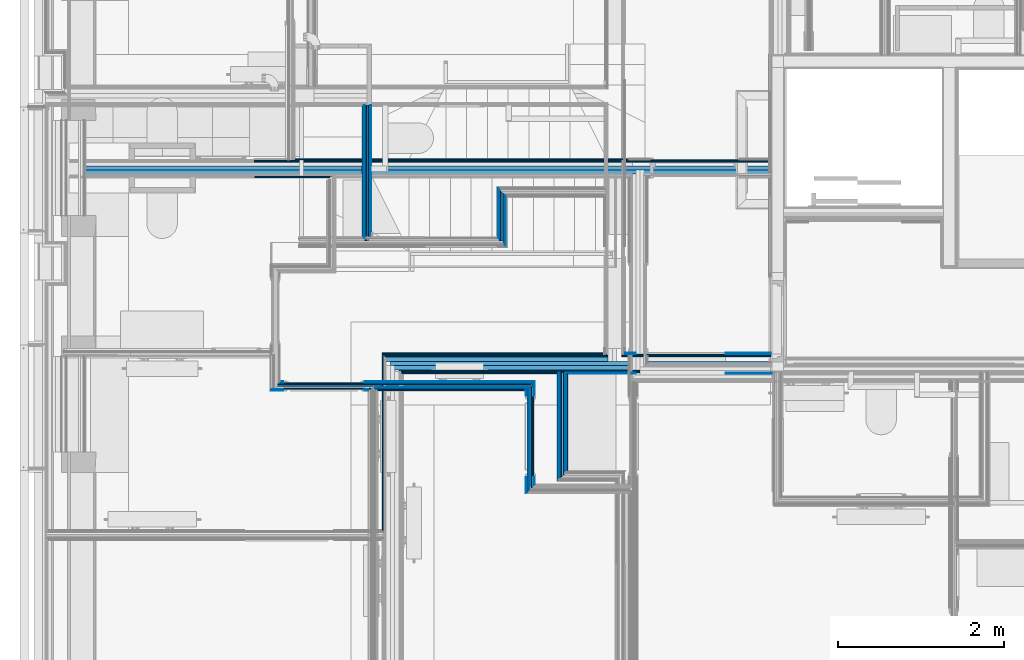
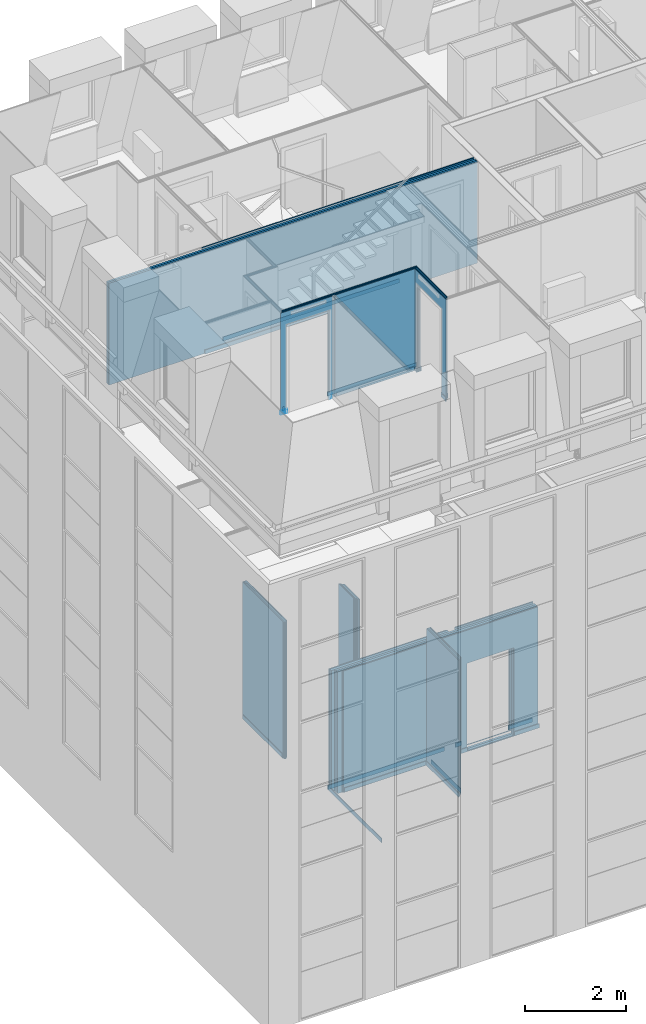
# One storey, part 18 of 169: 54 building element parts, 3 openings, 8 elements without a shape of their own.
"""IFC2X3 building model written with IfcOpenShell, lengths in metres."""

from ifc_helpers import new_model, entity, si_unit, converted_unit, derived_unit, money_unit, direction, frame, frame_2d, origin_with_axes, place, context, subcontext, project, spatial, polyline, rectangle, outline, extrude, material, type_object, element, aggregate, save


model = new_model("IFC2X3")

# Units and contexts
model_context = context("Model", 3, precision=1e-05, world=origin_with_axes(), true_north=direction((0.0, 1.0)))
body_context = subcontext(model_context, "Body", "Model", "MODEL_VIEW", scale=1.0)
ifc_project = project(units=[si_unit("LENGTHUNIT", "METRE"), si_unit("AREAUNIT", "SQUARE_METRE"), si_unit("VOLUMEUNIT", "CUBIC_METRE"), si_unit("ABSORBEDDOSEUNIT", "GRAY"), si_unit("AMOUNTOFSUBSTANCEUNIT", "MOLE"), si_unit("DOSEEQUIVALENTUNIT", "SIEVERT"), si_unit("ELECTRICCAPACITANCEUNIT", "FARAD"), si_unit("ELECTRICCHARGEUNIT", "COULOMB"), si_unit("ELECTRICCONDUCTANCEUNIT", "SIEMENS"), si_unit("ELECTRICCURRENTUNIT", "AMPERE"), si_unit("ELECTRICRESISTANCEUNIT", "OHM"), si_unit("ELECTRICVOLTAGEUNIT", "VOLT"), si_unit("ENERGYUNIT", "JOULE"), si_unit("FORCEUNIT", "NEWTON"), si_unit("FREQUENCYUNIT", "HERTZ"), si_unit("ILLUMINANCEUNIT", "LUX"), si_unit("INDUCTANCEUNIT", "HENRY"), si_unit("LUMINOUSFLUXUNIT", "LUMEN"), si_unit("LUMINOUSINTENSITYUNIT", "CANDELA"), si_unit("MAGNETICFLUXDENSITYUNIT", "TESLA"), si_unit("MAGNETICFLUXUNIT", "WEBER"), si_unit("MASSUNIT", "GRAM"), converted_unit("PLANEANGLEUNIT", "degree", entity("IfcReal", 0.0174532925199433), si_unit("PLANEANGLEUNIT", "RADIAN"), dimensions=[0, 0, 0, 0, 0, 0, 0]), si_unit("POWERUNIT", "WATT"), si_unit("PRESSUREUNIT", "PASCAL"), si_unit("RADIOACTIVITYUNIT", "BECQUEREL"), si_unit("SOLIDANGLEUNIT", "STERADIAN"), si_unit("THERMODYNAMICTEMPERATUREUNIT", "KELVIN"), si_unit("TIMEUNIT", "SECOND"), derived_unit("ACCELERATIONUNIT", [(si_unit("LENGTHUNIT", "METRE"), 1), (si_unit("TIMEUNIT", "SECOND"), -2)]), derived_unit("ANGULARVELOCITYUNIT", [(converted_unit("PLANEANGLEUNIT", "degree", entity("IfcReal", 0.0174532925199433), si_unit("PLANEANGLEUNIT", "RADIAN"), dimensions=[0, 0, 0, 0, 0, 0, 0]), 1), (si_unit("TIMEUNIT", "SECOND"), -1)]), derived_unit("CURVATUREUNIT", [(converted_unit("PLANEANGLEUNIT", "degree", entity("IfcReal", 0.0174532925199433), si_unit("PLANEANGLEUNIT", "RADIAN"), dimensions=[0, 0, 0, 0, 0, 0, 0]), 1), (si_unit("LENGTHUNIT", "METRE"), -1)]), derived_unit("DYNAMICVISCOSITYUNIT", [(si_unit("PRESSUREUNIT", "PASCAL"), 1), (si_unit("TIMEUNIT", "SECOND"), 1)]), derived_unit("HEATFLUXDENSITYUNIT", [(si_unit("POWERUNIT", "WATT"), 1), (si_unit("LENGTHUNIT", "METRE"), -2)]), derived_unit("HEATINGVALUEUNIT", [(si_unit("ENERGYUNIT", "JOULE"), 1), (si_unit("MASSUNIT", "GRAM"), -1)]), derived_unit("INTEGERCOUNTRATEUNIT", [(si_unit("TIMEUNIT", "SECOND"), -1)]), derived_unit("IONCONCENTRATIONUNIT", [(si_unit("MASSUNIT", "GRAM"), 1), (si_unit("VOLUMEUNIT", "CUBIC_METRE"), -1)]), derived_unit("ISOTHERMALMOISTURECAPACITYUNIT", [(si_unit("VOLUMEUNIT", "CUBIC_METRE"), 1), (si_unit("MASSUNIT", "GRAM"), -1)]), derived_unit("KINEMATICVISCOSITYUNIT", [(si_unit("AREAUNIT", "SQUARE_METRE"), 1), (si_unit("TIMEUNIT", "SECOND"), -1)]), derived_unit("LINEARFORCEUNIT", [(si_unit("FORCEUNIT", "NEWTON"), 1), (si_unit("LENGTHUNIT", "METRE"), -1)]), derived_unit("LINEARMOMENTUNIT", [(si_unit("FORCEUNIT", "NEWTON"), 1), (si_unit("LENGTHUNIT", "METRE"), -1)]), derived_unit("LINEARSTIFFNESSUNIT", [(si_unit("FORCEUNIT", "NEWTON"), 1), (si_unit("LENGTHUNIT", "METRE"), -1)]), derived_unit("LINEARVELOCITYUNIT", [(si_unit("LENGTHUNIT", "METRE"), 1), (si_unit("TIMEUNIT", "SECOND"), -1)]), derived_unit("LUMINOUSINTENSITYDISTRIBUTIONUNIT", [(si_unit("LUMINOUSINTENSITYUNIT", "CANDELA"), 1), (si_unit("LUMINOUSFLUXUNIT", "LUMEN"), -1)]), derived_unit("MASSDENSITYUNIT", [(si_unit("MASSUNIT", "GRAM"), 1), (si_unit("VOLUMEUNIT", "CUBIC_METRE"), -1)]), derived_unit("MASSFLOWRATEUNIT", [(si_unit("MASSUNIT", "GRAM"), 1), (si_unit("TIMEUNIT", "SECOND"), -1)]), derived_unit("MASSPERLENGTHUNIT", [(si_unit("MASSUNIT", "GRAM"), 1), (si_unit("LENGTHUNIT", "METRE"), -1)]), derived_unit("MODULUSOFELASTICITYUNIT", [(si_unit("FORCEUNIT", "NEWTON"), 1), (si_unit("AREAUNIT", "SQUARE_METRE"), -1)]), derived_unit("MODULUSOFLINEARSUBGRADEREACTIONUNIT", [(si_unit("FORCEUNIT", "NEWTON"), 1), (si_unit("LENGTHUNIT", "METRE"), -2)]), derived_unit("MODULUSOFROTATIONALSUBGRADEREACTIONUNIT", [(si_unit("FORCEUNIT", "NEWTON"), 1), (si_unit("LENGTHUNIT", "METRE"), 1)]), derived_unit("MODULUSOFSUBGRADEREACTIONUNIT", [(si_unit("FORCEUNIT", "NEWTON"), 1), (si_unit("VOLUMEUNIT", "CUBIC_METRE"), -1)]), derived_unit("MOISTUREDIFFUSIVITYUNIT", [(si_unit("VOLUMEUNIT", "CUBIC_METRE"), 1), (si_unit("TIMEUNIT", "SECOND"), -1)]), derived_unit("MOLECULARWEIGHTUNIT", [(si_unit("MASSUNIT", "GRAM"), 1), (si_unit("AMOUNTOFSUBSTANCEUNIT", "MOLE"), -1)]), derived_unit("PLANARFORCEUNIT", [(si_unit("FORCEUNIT", "NEWTON"), 1), (si_unit("LENGTHUNIT", "METRE"), -2)]), derived_unit("ROTATIONALFREQUENCYUNIT", [(si_unit("TIMEUNIT", "SECOND"), -1)]), derived_unit("ROTATIONALMASSUNIT", [(si_unit("MASSUNIT", "GRAM"), 1), (si_unit("LENGTHUNIT", "METRE"), 2)]), derived_unit("ROTATIONALSTIFFNESSUNIT", [(si_unit("FORCEUNIT", "NEWTON"), 1), (si_unit("LENGTHUNIT", "METRE"), 1), (converted_unit("PLANEANGLEUNIT", "degree", entity("IfcReal", 0.0174532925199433), si_unit("PLANEANGLEUNIT", "RADIAN"), dimensions=[0, 0, 0, 0, 0, 0, 0]), -1)]), derived_unit("SECTIONAREAINTEGRALUNIT", [(si_unit("LENGTHUNIT", "METRE"), 5)]), derived_unit("SECTIONMODULUSUNIT", [(si_unit("LENGTHUNIT", "METRE"), 3)]), derived_unit("SHEARMODULUSUNIT", [(si_unit("FORCEUNIT", "NEWTON"), 1), (si_unit("AREAUNIT", "SQUARE_METRE"), -1)]), derived_unit("SOUNDPOWERUNIT", [(si_unit("ENERGYUNIT", "JOULE"), 1), (si_unit("TIMEUNIT", "SECOND"), -1)]), derived_unit("SPECIFICHEATCAPACITYUNIT", [(si_unit("FORCEUNIT", "NEWTON"), 1), (si_unit("MASSUNIT", "GRAM"), -1), (si_unit("THERMODYNAMICTEMPERATUREUNIT", "KELVIN"), -1)]), derived_unit("TEMPERATUREGRADIENTUNIT", [(si_unit("THERMODYNAMICTEMPERATUREUNIT", "KELVIN"), 1), (si_unit("LENGTHUNIT", "METRE"), -1)]), derived_unit("THERMALADMITTANCEUNIT", [(si_unit("POWERUNIT", "WATT"), 1), (si_unit("AREAUNIT", "SQUARE_METRE"), -1), (si_unit("THERMODYNAMICTEMPERATUREUNIT", "KELVIN"), -1)]), derived_unit("THERMALCONDUCTANCEUNIT", [(si_unit("POWERUNIT", "WATT"), 1), (si_unit("LENGTHUNIT", "METRE"), -1), (si_unit("THERMODYNAMICTEMPERATUREUNIT", "KELVIN"), -1)]), derived_unit("THERMALEXPANSIONCOEFFICIENTUNIT", [(si_unit("THERMODYNAMICTEMPERATUREUNIT", "KELVIN"), -1)]), derived_unit("THERMALRESISTANCEUNIT", [(si_unit("AREAUNIT", "SQUARE_METRE"), 1), (si_unit("POWERUNIT", "WATT"), -1)]), derived_unit("THERMALTRANSMITTANCEUNIT", [(si_unit("POWERUNIT", "WATT"), 1), (si_unit("AREAUNIT", "SQUARE_METRE"), -1), (si_unit("THERMODYNAMICTEMPERATUREUNIT", "KELVIN"), -1)]), derived_unit("TORQUEUNIT", [(si_unit("FORCEUNIT", "NEWTON"), 1), (si_unit("LENGTHUNIT", "METRE"), 1)]), derived_unit("VAPORPERMEABILITYUNIT", [(si_unit("MASSUNIT", "GRAM"), 1), (si_unit("TIMEUNIT", "SECOND"), -1)]), derived_unit("VOLUMETRICFLOWRATEUNIT", [(si_unit("VOLUMEUNIT", "CUBIC_METRE"), 1), (si_unit("TIMEUNIT", "SECOND"), -1)]), derived_unit("WARPINGCONSTANTUNIT", [(si_unit("LENGTHUNIT", "METRE"), 6)]), derived_unit("WARPINGMOMENTUNIT", [(si_unit("FORCEUNIT", "NEWTON"), 1), (si_unit("LENGTHUNIT", "METRE"), 2)]), money_unit("GBP")], contexts=[model_context])

# Site, building, storey
site_placement = place(None, origin_with_axes())
site = spatial("IfcSite", under=ifc_project, at=site_placement, Name="Site", CompositionType="ELEMENT")
building_placement = place(site_placement, origin_with_axes())
building = spatial("IfcBuilding", under=site, at=building_placement, Name="Building01", CompositionType="ELEMENT")
storey_placement = place(building_placement, frame((0.0, 0.0, 5.15), z_axis=(0.0, 0.0, 1.0), x_axis=(1.0, 0.0, 0.0)))
storey = spatial("IfcBuildingStorey", under=building, at=storey_placement, Name="1F", CompositionType="ELEMENT", Elevation=5.15)

# Wall, building element parts
wall_type_1 = type_object("IfcWallType", Name="SHE_A-Walls_Type05a_Partition_95mm_tall", PredefinedType="NOTDEFINED")
wall_1_placement = place(storey_placement, frame((4.20573, 6.571475, 0.0), z_axis=(0.0, 0.0, 1.0), x_axis=(0.0, 1.0, 0.0)))
wall_1 = element("IfcWall", 1, at=wall_1_placement, inside=storey, type_object=wall_type_1, Name="5A", ObjectType="SHE_A-Walls_Type05a_Partition_95mm_tall")
ifc_material_1 = material(Name="A_BSUK_WallInternal_Finishes_Plasterboard")
placement_1 = place(wall_1_placement, origin_with_axes())
building_element_part_1 = element("IfcBuildingElementPart", 2, at=placement_1, material=ifc_material_1, Name="2", context=body_context, shape_type="SweptSolid", body=[
    extrude(rectangle(XDim=1.604195, YDim=0.012, at=frame_2d((0.837097, -0.029), x_axis=(-1.0, 0.0))), origin_with_axes(), (0.0, 0.0, 1.0), 3.32),
])
ifc_material_2 = material(Name="Air Cavity")
building_element_part_2 = element("IfcBuildingElementPart", 3, at=placement_1, material=ifc_material_2, Name="3", context=body_context, shape_type="SweptSolid", body=[
    extrude(rectangle(XDim=1.604195, YDim=0.023, at=frame_2d((0.837097, -0.0115), x_axis=(-1.0, 0.0))), origin_with_axes(), (0.0, 0.0, 1.0), 3.32),
])
ifc_material_3 = material(Name="A_BSUK_Insulation")
building_element_part_3 = element("IfcBuildingElementPart", 4, at=placement_1, material=ifc_material_3, Name="4", context=body_context, shape_type="SweptSolid", body=[
    extrude(rectangle(XDim=1.639195, YDim=0.025, at=frame_2d((0.819597, 0.0125), x_axis=(-1.0, 0.0))), origin_with_axes(), (0.0, 0.0, 1.0), 3.32),
])
building_element_part_4 = element("IfcBuildingElementPart", 5, at=placement_1, material=ifc_material_2, Name="5", context=body_context, shape_type="SweptSolid", body=[
    extrude(rectangle(XDim=1.639195, YDim=0.023, at=frame_2d((0.819597, 0.0365), x_axis=(-1.0, 0.0))), origin_with_axes(), (0.0, 0.0, 1.0), 3.32),
])
building_element_part_5 = element("IfcBuildingElementPart", 6, at=placement_1, material=ifc_material_1, Name="6", context=body_context, shape_type="SweptSolid", body=[
    extrude(rectangle(XDim=1.604195, YDim=0.012, at=frame_2d((0.837097, 0.054), x_axis=(-1.0, 0.0))), origin_with_axes(), (0.0, 0.0, 1.0), 3.32),
])
ifc_material_4 = material(Name="A_BSUK_Walls_Timber")
building_element_part_6 = element("IfcBuildingElementPart", 7, at=placement_1, material=ifc_material_4, Name="7", context=body_context, shape_type="SweptSolid", body=[
    extrude(rectangle(XDim=1.574195, YDim=0.015, at=frame_2d((0.837097, 0.0675), x_axis=(-1.0, 0.0))), frame((0.0, 0.0, 0.015), z_axis=(0.0, 0.0, 1.0), x_axis=(1.0, 0.0, 0.0)), (0.0, 0.0, 1.0), 0.1),
])
aggregate(wall_1, [building_element_part_1, building_element_part_2, building_element_part_3, building_element_part_4, building_element_part_5, building_element_part_6])

# Wall, building element part
wall_type_2 = type_object("IfcWallType", Name="SHE_A-Walls_Type01c_Partywall_225mm_twin_tall", PredefinedType="NOTDEFINED")
wall_2_placement = place(storey_placement, frame((4.522, 0.306, 0.0), z_axis=(0.0, 0.0, 1.0), x_axis=(0.0, 1.0, 0.0)))
wall_2 = element("IfcWall", 8, at=wall_2_placement, inside=storey, type_object=wall_type_2, Name="1C", ObjectType="SHE_A-Walls_Type01c_Partywall_225mm_twin_tall")
building_element_part_7_placement = place(wall_2_placement, origin_with_axes())
building_element_part_7 = element("IfcBuildingElementPart", 9, at=building_element_part_7_placement, material=ifc_material_4, Name="10", context=body_context, shape_type="SweptSolid", body=[
    extrude(outline(polyline([(4.914, 0.152), (2.774286, 0.152), (2.774286, 0.137), (4.899, 0.137), (4.914, 0.152)])), frame((0.0, 0.0, 0.015), z_axis=(0.0, 0.0, 1.0), x_axis=(1.0, 0.0, 0.0)), (0.0, 0.0, 1.0), 0.1),
])
aggregate(wall_2, [building_element_part_7])

# Wall, opening, building element parts
wall_3_placement = place(storey_placement, frame((9.06, 5.117, 0.0), z_axis=(0.0, 0.0, 1.0), x_axis=(-1.0, 0.0, 0.0)))
wall_3 = element("IfcWall", 10, at=wall_3_placement, inside=storey, type_object=wall_type_2, Name="1C", ObjectType="SHE_A-Walls_Type01c_Partywall_225mm_twin_tall")
opening_1_placement = place(wall_3_placement, frame((0.5455, -0.103, 0.004), z_axis=(0.0, 0.0, 1.0), x_axis=(1.0, 0.0, 0.0)))
element("IfcOpeningElement", 11, at=opening_1_placement, cuts=wall_3, Name="Opening", ObjectType="Opening", context=body_context, shape_type="SweptSolid", body=[
    extrude(rectangle(XDim=2.142, YDim=1.084, at=frame_2d((-0.542, 1.071), x_axis=(0.0, -1.0))), frame((0.0, 0.0, 0.0), z_axis=(0.0, 1.0, 0.0), x_axis=(-1.0, 0.0, 0.0)), (0.0, 0.0, 1.0), 0.255),
])
placement_2 = place(wall_3_placement, origin_with_axes())
building_element_part_8 = element("IfcBuildingElementPart", 12, at=placement_2, material=ifc_material_4, Name="1", context=body_context, shape_type="SweptSolid", body=[
    extrude(rectangle(XDim=1.755331, YDim=0.015, at=frame_2d((0.877666, -0.0955), x_axis=(-1.0, 0.0))), frame((0.0, 0.0, 0.015), z_axis=(0.0, 0.0, 1.0), x_axis=(1.0, 0.0, 0.0)), (0.0, 0.0, 1.0), 0.1),
])
building_element_part_9 = element("IfcBuildingElementPart", 13, at=placement_2, material=ifc_material_4, Name="2", context=body_context, shape_type="SweptSolid", body=[
    extrude(outline(polyline([(4.675, -0.088), (2.010331, -0.088), (2.010331, -0.103), (4.69, -0.103), (4.675, -0.088)])), frame((0.0, 0.0, 0.015), z_axis=(0.0, 0.0, 1.0), x_axis=(1.0, 0.0, 0.0)), (0.0, 0.0, 1.0), 0.1),
])
building_element_part_10 = element("IfcBuildingElementPart", 14, at=placement_2, material=ifc_material_1, Name="3", context=body_context, shape_type="SweptSolid", body=[
    extrude(rectangle(XDim=1.785331, YDim=0.015, at=frame_2d((0.892666, -0.0805), x_axis=(-1.0, 0.0))), origin_with_axes(), (0.0, 0.0, 1.0), 2.95),
])
building_element_part_11 = element("IfcBuildingElementPart", 15, at=placement_2, material=ifc_material_1, Name="4", context=body_context, shape_type="SweptSolid", body=[
    extrude(rectangle(XDim=2.694669, YDim=0.015, at=frame_2d((3.327666, -0.0805), x_axis=(-1.0, 0.0))), origin_with_axes(), (0.0, 0.0, 1.0), 2.95),
])
building_element_part_12 = element("IfcBuildingElementPart", 16, at=placement_2, material=ifc_material_1, Name="5", context=body_context, shape_type="SweptSolid", body=[
    extrude(rectangle(XDim=1.800331, YDim=0.015, at=frame_2d((0.900166, -0.0655), x_axis=(-1.0, 0.0))), origin_with_axes(), (0.0, 0.0, 1.0), 2.95),
])
building_element_part_13 = element("IfcBuildingElementPart", 17, at=placement_2, material=ifc_material_1, Name="6", context=body_context, shape_type="SweptSolid", body=[
    extrude(rectangle(XDim=2.694669, YDim=0.015, at=frame_2d((3.312666, -0.0655), x_axis=(-1.0, 0.0))), origin_with_axes(), (0.0, 0.0, 1.0), 2.95),
])
building_element_part_14 = element("IfcBuildingElementPart", 18, at=placement_2, material=ifc_material_2, Name="7", context=body_context, shape_type="SweptSolid", body=[
    extrude(rectangle(XDim=2.694669, YDim=0.058, at=frame_2d((3.312666, -0.029), x_axis=(-1.0, 0.0))), origin_with_axes(), (0.0, 0.0, 1.0), 2.95),
])
building_element_part_15 = element("IfcBuildingElementPart", 19, at=placement_2, material=ifc_material_3, Name="8", context=body_context, shape_type="SweptSolid", body=[
    extrude(rectangle(XDim=4.588, YDim=0.05, at=frame_2d((2.294, 0.025), x_axis=(-1.0, 0.0))), origin_with_axes(), (0.0, 0.0, 1.0), 2.95),
])
building_element_part_16 = element("IfcBuildingElementPart", 20, at=placement_2, material=ifc_material_2, Name="9", context=body_context, shape_type="SweptSolid", body=[
    extrude(rectangle(XDim=4.588, YDim=0.057, at=frame_2d((2.294, 0.0785), x_axis=(-1.0, 0.0))), origin_with_axes(), (0.0, 0.0, 1.0), 2.95),
])
building_element_part_17 = element("IfcBuildingElementPart", 21, at=placement_2, material=ifc_material_1, Name="10", context=body_context, shape_type="SweptSolid", body=[
    extrude(rectangle(XDim=4.48, YDim=0.015, at=frame_2d((2.24, 0.1145), x_axis=(-1.0, 0.0))), origin_with_axes(), (0.0, 0.0, 1.0), 2.95),
])
building_element_part_18 = element("IfcBuildingElementPart", 22, at=placement_2, material=ifc_material_1, Name="11", context=body_context, shape_type="SweptSolid", body=[
    extrude(rectangle(XDim=4.465, YDim=0.015, at=frame_2d((2.2325, 0.1295), x_axis=(-1.0, 0.0))), origin_with_axes(), (0.0, 0.0, 1.0), 2.95),
])
building_element_part_19 = element("IfcBuildingElementPart", 23, at=placement_2, material=ifc_material_4, Name="12", context=body_context, shape_type="SweptSolid", body=[
    extrude(rectangle(XDim=2.487536, YDim=0.015, at=frame_2d((1.221232, 0.1445), x_axis=(-1.0, 0.0))), frame((0.0, 0.0, 0.015), z_axis=(0.0, 0.0, 1.0), x_axis=(1.0, 0.0, 0.0)), (0.0, 0.0, 1.0), 0.1),
])
building_element_part_20 = element("IfcBuildingElementPart", 24, at=placement_2, material=ifc_material_4, Name="13", context=body_context, shape_type="SweptSolid", body=[
    extrude(rectangle(XDim=1.89, YDim=0.015, at=frame_2d((3.505, 0.1445), x_axis=(-1.0, 0.0))), frame((0.0, 0.0, 0.015), z_axis=(0.0, 0.0, 1.0), x_axis=(1.0, 0.0, 0.0)), (0.0, 0.0, 1.0), 0.1),
])
aggregate(wall_3, [building_element_part_8, building_element_part_9, building_element_part_10, building_element_part_11, building_element_part_12, building_element_part_13, building_element_part_14, building_element_part_15, building_element_part_16, building_element_part_17, building_element_part_18, building_element_part_19, building_element_part_20])

# Wall, building element parts
wall_4_placement = place(storey_placement, frame((5.804669, 6.571475, 0.0), z_axis=(0.0, 0.0, 1.0), x_axis=(0.0, 1.0, 0.0)))
wall_4 = element("IfcWall", 25, at=wall_4_placement, inside=storey, type_object=wall_type_1, Name="5A", ObjectType="SHE_A-Walls_Type05a_Partition_95mm_tall")
placement_3 = place(wall_4_placement, origin_with_axes())
building_element_part_21 = element("IfcBuildingElementPart", 26, at=placement_3, material=ifc_material_1, Name="2", context=body_context, shape_type="SweptSolid", body=[
    extrude(outline(polyline([(0.552, -0.048), (-0.048, -0.048), (-0.06, -0.06), (0.54, -0.06), (0.552, -0.048)])), origin_with_axes(), (0.0, 0.0, 1.0), 3.32),
])
building_element_part_22 = element("IfcBuildingElementPart", 27, at=placement_3, material=ifc_material_2, Name="3", context=body_context, shape_type="SweptSolid", body=[
    extrude(outline(polyline([(0.575, -0.025), (-0.025, -0.025), (-0.048, -0.048), (0.552, -0.048), (0.575, -0.025)])), origin_with_axes(), (0.0, 0.0, 1.0), 3.32),
])
building_element_part_23 = element("IfcBuildingElementPart", 28, at=placement_3, material=ifc_material_3, Name="4", context=body_context, shape_type="SweptSolid", body=[
    extrude(outline(polyline([(0.6, 0.0), (0.0, 0.0), (0.0, -0.025), (0.575, -0.025), (0.6, 0.0)])), origin_with_axes(), (0.0, 0.0, 1.0), 3.32),
])
building_element_part_24 = element("IfcBuildingElementPart", 29, at=placement_3, material=ifc_material_2, Name="5", context=body_context, shape_type="SweptSolid", body=[
    extrude(outline(polyline([(0.623, 0.023), (0.0, 0.023), (0.0, 0.0), (0.6, 0.0), (0.623, 0.023)])), origin_with_axes(), (0.0, 0.0, 1.0), 3.32),
])
building_element_part_25 = element("IfcBuildingElementPart", 30, at=placement_3, material=ifc_material_1, Name="6", context=body_context, shape_type="SweptSolid", body=[
    extrude(outline(polyline([(0.635, 0.035), (0.035, 0.035), (0.023, 0.023), (0.623, 0.023), (0.635, 0.035)])), origin_with_axes(), (0.0, 0.0, 1.0), 3.32),
])
aggregate(wall_4, [building_element_part_21, building_element_part_22, building_element_part_23, building_element_part_24, building_element_part_25])

wall_5_placement = place(storey_placement, frame((6.535, 3.72, 0.0), z_axis=(0.0, 0.0, 1.0), x_axis=(0.0, 1.0, 0.0)))
wall_5 = element("IfcWall", 31, at=wall_5_placement, inside=storey, type_object=wall_type_1, Name="5A", ObjectType="SHE_A-Walls_Type05a_Partition_95mm_tall")
placement_4 = place(wall_5_placement, origin_with_axes())
building_element_part_26 = element("IfcBuildingElementPart", 32, at=placement_4, material=ifc_material_4, Name="1", context=body_context, shape_type="SweptSolid", body=[
    extrude(outline(polyline([(1.245, -0.06), (0.06, -0.06), (0.075, -0.075), (1.245, -0.075), (1.245, -0.06)])), frame((0.0, 0.0, 0.015), z_axis=(0.0, 0.0, 1.0), x_axis=(1.0, 0.0, 0.0)), (0.0, 0.0, 1.0), 0.1),
])
building_element_part_27 = element("IfcBuildingElementPart", 33, at=placement_4, material=ifc_material_1, Name="2", context=body_context, shape_type="SweptSolid", body=[
    extrude(outline(polyline([(1.26, -0.048), (0.048, -0.048), (0.06, -0.06), (1.26, -0.06), (1.26, -0.048)])), origin_with_axes(), (0.0, 0.0, 1.0), 3.32),
])
building_element_part_28 = element("IfcBuildingElementPart", 34, at=placement_4, material=ifc_material_2, Name="3", context=body_context, shape_type="SweptSolid", body=[
    extrude(outline(polyline([(1.26, -0.025), (0.025, -0.025), (0.048, -0.048), (1.26, -0.048), (1.26, -0.025)])), origin_with_axes(), (0.0, 0.0, 1.0), 3.32),
])
building_element_part_29 = element("IfcBuildingElementPart", 35, at=placement_4, material=ifc_material_3, Name="4", context=body_context, shape_type="SweptSolid", body=[
    extrude(outline(polyline([(1.26, 0.0), (0.0, 0.0), (0.025, -0.025), (1.26, -0.025), (1.26, 0.0)])), origin_with_axes(), (0.0, 0.0, 1.0), 3.32),
])
building_element_part_30 = element("IfcBuildingElementPart", 36, at=placement_4, material=ifc_material_2, Name="5", context=body_context, shape_type="SweptSolid", body=[
    extrude(outline(polyline([(1.26, 0.023), (-0.023, 0.023), (0.0, 0.0), (1.26, 0.0), (1.26, 0.023)])), origin_with_axes(), (0.0, 0.0, 1.0), 3.32),
])
building_element_part_31 = element("IfcBuildingElementPart", 37, at=placement_4, material=ifc_material_1, Name="6", context=body_context, shape_type="SweptSolid", body=[
    extrude(outline(polyline([(1.26, 0.035), (-0.035, 0.035), (-0.023, 0.023), (1.26, 0.023), (1.26, 0.035)])), origin_with_axes(), (0.0, 0.0, 1.0), 3.32),
])
building_element_part_32 = element("IfcBuildingElementPart", 38, at=placement_4, material=ifc_material_4, Name="7", context=body_context, shape_type="SweptSolid", body=[
    extrude(outline(polyline([(1.245, 0.05), (-0.05, 0.05), (-0.035, 0.035), (1.245, 0.035), (1.245, 0.05)])), frame((0.0, 0.0, 0.015), z_axis=(0.0, 0.0, 1.0), x_axis=(1.0, 0.0, 0.0)), (0.0, 0.0, 1.0), 0.1),
])
aggregate(wall_5, [building_element_part_26, building_element_part_27, building_element_part_28, building_element_part_29, building_element_part_30, building_element_part_31, building_element_part_32])

wall_type_3 = type_object("IfcWallType", Name="SHE_A-Walls_Type01d_Partywall_200mm_twin", PredefinedType="NOTDEFINED")
wall_6_placement = place(storey_placement, frame((9.06, 7.425061, 9.83), z_axis=(0.0, 0.0, 1.0), x_axis=(-1.0, 0.0, 0.0)))
wall_6 = element("IfcWall", 39, at=wall_6_placement, inside=storey, type_object=wall_type_3, Name="1D", ObjectType="SHE_A-Walls_Type01d_Partywall_200mm_twin")
placement_5 = place(wall_6_placement, origin_with_axes())
building_element_part_33 = element("IfcBuildingElementPart", 40, at=placement_5, material=ifc_material_4, Name="3", context=body_context, shape_type="SweptSolid", body=[
    extrude(rectangle(XDim=4.045, YDim=0.015, at=frame_2d((3.7225, -0.1325), x_axis=(-1.0, 0.0))), frame((0.0, 0.0, 0.015), z_axis=(0.0, 0.0, 1.0), x_axis=(1.0, 0.0, 0.0)), (0.0, 0.0, 1.0), 0.1),
])
building_element_part_34 = element("IfcBuildingElementPart", 41, at=placement_5, material=ifc_material_1, Name="4", context=body_context, shape_type="SweptSolid", body=[
    extrude(rectangle(XDim=6.234909, YDim=0.015, at=frame_2d((3.117454, -0.1175), x_axis=(-1.0, 0.0))), origin_with_axes(), (0.0, 0.0, 1.0), 2.468),
])
building_element_part_35 = element("IfcBuildingElementPart", 42, at=placement_5, material=ifc_material_1, Name="6", context=body_context, shape_type="SweptSolid", body=[
    extrude(rectangle(XDim=6.234909, YDim=0.015, at=frame_2d((3.117454, -0.1025), x_axis=(-1.0, 0.0))), origin_with_axes(), (0.0, 0.0, 1.0), 2.468),
])
building_element_part_36 = element("IfcBuildingElementPart", 43, at=placement_5, material=ifc_material_3, Name="9", context=body_context, shape_type="SweptSolid", body=[
    extrude(rectangle(XDim=8.460061, YDim=0.05, at=frame_2d((4.23003, -0.025), x_axis=(-1.0, 0.0))), origin_with_axes(), (0.0, 0.0, 1.0), 2.468),
])
building_element_part_37 = element("IfcBuildingElementPart", 44, at=placement_5, material=ifc_material_2, Name="10", context=body_context, shape_type="SweptSolid", body=[
    extrude(rectangle(XDim=8.460061, YDim=0.045, at=frame_2d((4.23003, 0.0225), x_axis=(-1.0, 0.0))), origin_with_axes(), (0.0, 0.0, 1.0), 2.468),
])
building_element_part_38 = element("IfcBuildingElementPart", 45, at=placement_5, material=ifc_material_4, Name="13", context=body_context, shape_type="SweptSolid", body=[
    extrude(rectangle(XDim=4.584909, YDim=0.015, at=frame_2d((3.992454, 0.0825), x_axis=(-1.0, 0.0))), frame((0.0, 0.0, 0.015), z_axis=(0.0, 0.0, 1.0), x_axis=(1.0, 0.0, 0.0)), (0.0, 0.0, 1.0), 0.1),
])
aggregate(wall_6, [building_element_part_33, building_element_part_34, building_element_part_35, building_element_part_36, building_element_part_37, building_element_part_38])

# Wall, opening, building element parts
wall_type_4 = type_object("IfcWallType", Name="SHE_A-Walls_Type05b_Partition_80mm", PredefinedType="NOTDEFINED")
wall_7_placement = place(storey_placement, frame((3.091976, 4.806939, 9.83), z_axis=(0.0, 0.0, 1.0), x_axis=(1.0, 0.0, 0.0)))
wall_7 = element("IfcWall", 46, at=wall_7_placement, inside=storey, type_object=wall_type_4, Name="5B", ObjectType="SHE_A-Walls_Type05b_Partition_80mm")
opening_2_placement = place(wall_7_placement, frame((0.086, 0.068, 0.0), z_axis=(0.0, 0.0, 1.0), x_axis=(1.0, 0.0, 0.0)))
element("IfcOpeningElement", 47, at=opening_2_placement, cuts=wall_7, Name="Opening", ObjectType="Opening", context=body_context, shape_type="SweptSolid", body=[
    extrude(rectangle(XDim=0.984, YDim=2.142, at=frame_2d((0.492, 1.071), x_axis=(-1.0, 0.0))), frame((0.0, 0.0, 0.0), z_axis=(0.0, -1.0, 0.0), x_axis=(1.0, 0.0, 0.0)), (0.0, 0.0, 1.0), 0.11),
])
placement_6 = place(wall_7_placement, origin_with_axes())
building_element_part_39 = element("IfcBuildingElementPart", 48, at=placement_6, material=ifc_material_4, Name="1", context=body_context, shape_type="SweptSolid", body=[
    extrude(outline(polyline([(1.113, -0.027), (-0.052, -0.027), (-0.067, -0.042), (1.113, -0.042), (1.113, -0.027)])), frame((0.0, 0.0, 0.015), z_axis=(0.0, 0.0, 1.0), x_axis=(1.0, 0.0, 0.0)), (0.0, 0.0, 1.0), 0.1),
])
building_element_part_40 = element("IfcBuildingElementPart", 49, at=placement_6, material=ifc_material_4, Name="2", context=body_context, shape_type="SweptSolid", body=[
    extrude(outline(polyline([(3.028122, -0.027), (1.223, -0.027), (1.223, -0.042), (3.013122, -0.042), (3.028122, -0.027)])), frame((0.0, 0.0, 0.015), z_axis=(0.0, 0.0, 1.0), x_axis=(1.0, 0.0, 0.0)), (0.0, 0.0, 1.0), 0.1),
])
building_element_part_41 = element("IfcBuildingElementPart", 50, at=placement_6, material=ifc_material_1, Name="3", context=body_context, shape_type="SweptSolid", body=[
    extrude(outline(polyline([(1.143, -0.012), (-0.037, -0.012), (-0.052, -0.027), (1.143, -0.027), (1.143, -0.012)])), origin_with_axes(), (0.0, 0.0, 1.0), 2.468),
])
building_element_part_42 = element("IfcBuildingElementPart", 51, at=placement_6, material=ifc_material_1, Name="4", context=body_context, shape_type="SweptSolid", body=[
    extrude(outline(polyline([(3.043122, -0.012), (1.193, -0.012), (1.193, -0.027), (3.028122, -0.027), (3.043122, -0.012)])), origin_with_axes(), (0.0, 0.0, 1.0), 2.468),
])
building_element_part_43 = element("IfcBuildingElementPart", 52, at=placement_6, material=ifc_material_2, Name="5", context=body_context, shape_type="SweptSolid", body=[
    extrude(outline(polyline([(3.055122, 0.0), (1.193, 0.0), (1.193, -0.012), (3.043122, -0.012), (3.055122, 0.0)])), origin_with_axes(), (0.0, 0.0, 1.0), 2.468),
])
building_element_part_44 = element("IfcBuildingElementPart", 53, at=placement_6, material=ifc_material_3, Name="6", context=body_context, shape_type="SweptSolid", body=[
    extrude(rectangle(XDim=3.080122, YDim=0.025, at=frame_2d((1.540061, 0.0125), x_axis=(-1.0, 0.0))), origin_with_axes(), (0.0, 0.0, 1.0), 2.468),
])
building_element_part_45 = element("IfcBuildingElementPart", 54, at=placement_6, material=ifc_material_2, Name="7", context=body_context, shape_type="SweptSolid", body=[
    extrude(rectangle(XDim=3.080122, YDim=0.013, at=frame_2d((1.540061, 0.0315), x_axis=(-1.0, 0.0))), origin_with_axes(), (0.0, 0.0, 1.0), 2.468),
])
building_element_part_46 = element("IfcBuildingElementPart", 55, at=placement_6, material=ifc_material_1, Name="8", context=body_context, shape_type="SweptSolid", body=[
    extrude(outline(polyline([(3.108122, 0.053), (0.028, 0.053), (0.013, 0.038), (3.093122, 0.038), (3.108122, 0.053)])), origin_with_axes(), (0.0, 0.0, 1.0), 2.468),
])
building_element_part_47 = element("IfcBuildingElementPart", 56, at=placement_6, material=ifc_material_4, Name="9", context=body_context, shape_type="SweptSolid", body=[
    extrude(outline(polyline([(3.123122, 0.068), (0.043, 0.068), (0.028, 0.053), (3.108122, 0.053), (3.123122, 0.068)])), frame((0.0, 0.0, 0.015), z_axis=(0.0, 0.0, 1.0), x_axis=(1.0, 0.0, 0.0)), (0.0, 0.0, 1.0), 0.1),
])
aggregate(wall_7, [building_element_part_39, building_element_part_40, building_element_part_41, building_element_part_42, building_element_part_43, building_element_part_44, building_element_part_45, building_element_part_46, building_element_part_47])

wall_8_placement = place(storey_placement, frame((6.147098, 4.806939, 9.83), z_axis=(0.0, 0.0, 1.0), x_axis=(0.0, -1.0, 0.0)))
wall_8 = element("IfcWall", 57, at=wall_8_placement, inside=storey, type_object=wall_type_4, Name="5B", ObjectType="SHE_A-Walls_Type05b_Partition_80mm")
opening_3_placement = place(wall_8_placement, frame((0.105, -0.042, 0.0), z_axis=(0.0, 0.0, 1.0), x_axis=(1.0, 0.0, 0.0)))
element("IfcOpeningElement", 58, at=opening_3_placement, cuts=wall_8, Name="Opening", ObjectType="Opening", context=body_context, shape_type="SweptSolid", body=[
    extrude(rectangle(XDim=2.142, YDim=0.984, at=frame_2d((-0.492, 1.071), x_axis=(0.0, 1.0))), frame((0.0, 0.0, 0.0), z_axis=(0.0, 1.0, 0.0), x_axis=(-1.0, 0.0, 0.0)), (0.0, 0.0, 1.0), 0.11),
])
placement_7 = place(wall_8_placement, origin_with_axes())
building_element_part_48 = element("IfcBuildingElementPart", 59, at=placement_7, material=ifc_material_4, Name="1", context=body_context, shape_type="SweptSolid", body=[
    extrude(outline(polyline([(1.267, -0.027), (0.027, -0.027), (0.042, -0.042), (1.282, -0.042), (1.267, -0.027)])), frame((0.0, 0.0, 0.015), z_axis=(0.0, 0.0, 1.0), x_axis=(1.0, 0.0, 0.0)), (0.0, 0.0, 1.0), 0.1),
])
building_element_part_49 = element("IfcBuildingElementPart", 60, at=placement_7, material=ifc_material_1, Name="2", context=body_context, shape_type="SweptSolid", body=[
    extrude(outline(polyline([(1.252, -0.012), (0.012, -0.012), (0.027, -0.027), (1.267, -0.027), (1.252, -0.012)])), origin_with_axes(), (0.0, 0.0, 1.0), 2.468),
])
building_element_part_50 = element("IfcBuildingElementPart", 61, at=placement_7, material=ifc_material_2, Name="3", context=body_context, shape_type="SweptSolid", body=[
    extrude(outline(polyline([(1.24, 0.0), (0.0, 0.0), (0.012, -0.012), (1.252, -0.012), (1.24, 0.0)])), origin_with_axes(), (0.0, 0.0, 1.0), 2.468),
])
building_element_part_51 = element("IfcBuildingElementPart", 62, at=placement_7, material=ifc_material_3, Name="4", context=body_context, shape_type="SweptSolid", body=[
    extrude(rectangle(XDim=1.215, YDim=0.025, at=frame_2d((0.6075, 0.0125), x_axis=(-1.0, 0.0))), origin_with_axes(), (0.0, 0.0, 1.0), 2.468),
])
building_element_part_52 = element("IfcBuildingElementPart", 63, at=placement_7, material=ifc_material_2, Name="5", context=body_context, shape_type="SweptSolid", body=[
    extrude(rectangle(XDim=1.215, YDim=0.013, at=frame_2d((0.6075, 0.0315), x_axis=(-1.0, 0.0))), origin_with_axes(), (0.0, 0.0, 1.0), 2.468),
])
building_element_part_53 = element("IfcBuildingElementPart", 64, at=placement_7, material=ifc_material_1, Name="6", context=body_context, shape_type="SweptSolid", body=[
    extrude(outline(polyline([(1.187, 0.053), (-0.053, 0.053), (-0.038, 0.038), (1.202, 0.038), (1.187, 0.053)])), origin_with_axes(), (0.0, 0.0, 1.0), 2.468),
])
building_element_part_54 = element("IfcBuildingElementPart", 65, at=placement_7, material=ifc_material_4, Name="7", context=body_context, shape_type="SweptSolid", body=[
    extrude(outline(polyline([(1.172, 0.068), (-0.068, 0.068), (-0.053, 0.053), (1.187, 0.053), (1.172, 0.068)])), frame((0.0, 0.0, 0.015), z_axis=(0.0, 0.0, 1.0), x_axis=(1.0, 0.0, 0.0)), (0.0, 0.0, 1.0), 0.1),
])
aggregate(wall_8, [building_element_part_48, building_element_part_49, building_element_part_50, building_element_part_51, building_element_part_52, building_element_part_53, building_element_part_54])

save(model, "model.ifc")
